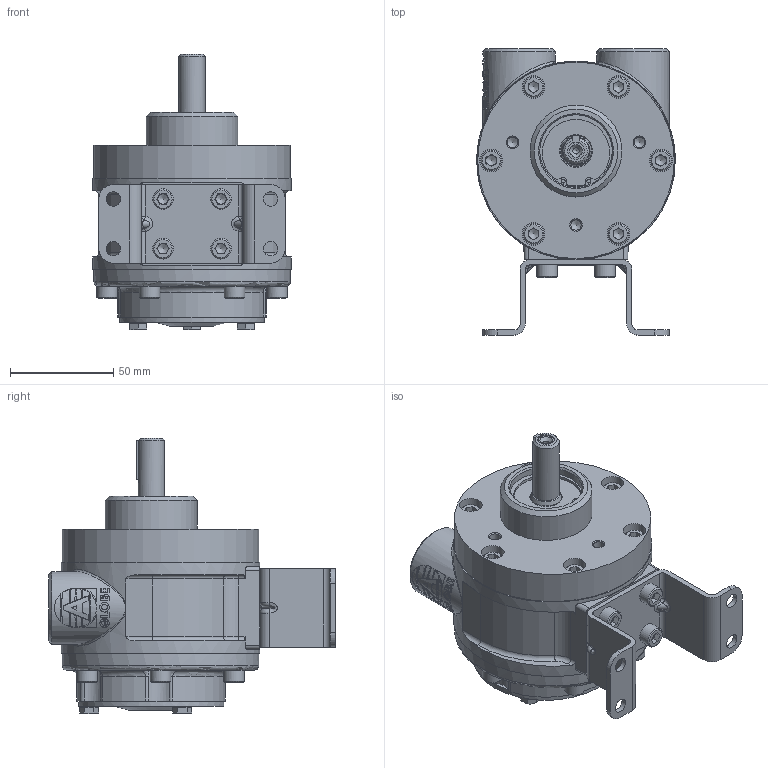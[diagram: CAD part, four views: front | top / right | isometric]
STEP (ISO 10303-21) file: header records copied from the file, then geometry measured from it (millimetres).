
FILE_DESCRIPTION (( 'STEP AP214' ), '1' );
FILE_NAME ('VA4J Defeature + Logo.STEP', '2023-05-23T10:04:52', ( '' ), ( '' ), 'SwSTEP 2.0', 'SolidWorks 2022', '' );
FILE_SCHEMA (( 'AUTOMOTIVE_DESIGN' ));
Length unit declared in the file: millimetre
Products named in the file (1): VA4J Defeature + Logo
Bounding box: 96 x 138.4 x 133.2 mm (x, y, z)
Volume: 605424.7 mm3; surface area: 67185.4 mm2
Topology: 1 solids, 1 shells, 715 faces, 1726 edges, 1056 vertices
Faces by surface type: plane 332, cylinder 149, bspline 134, cone 71, torus 21, sphere 8
Full cylindrical faces by diameter (mm): 1.9 x2, 3 x1, 5.105 x3, 7 x4, 8 x4, 10 x16, 11 x6, 12.7 x1, 15 x1, 15.3 x1, 17.1 x1, 18.631 x2, 34 x1, 35 x4, 37 x1, 44.4 x1, 70 x1, 95 x2, 96 x2
Entity records: 39836 total; most frequent: CARTESIAN_POINT 21585, ORIENTED_EDGE 3080, DIRECTION 2745, EDGE_CURVE 1540, AXIS2_PLACEMENT_3D 1054, VERTEX_POINT 991, EDGE_LOOP 891, FACE_OUTER_BOUND 772
